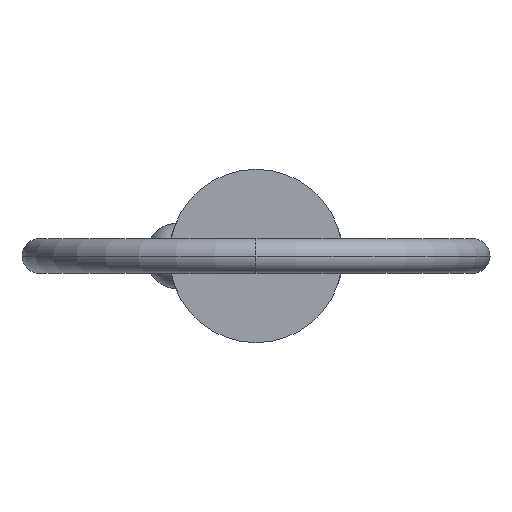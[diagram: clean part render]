
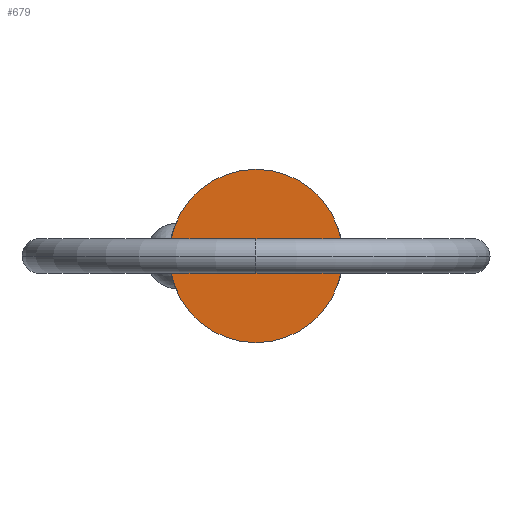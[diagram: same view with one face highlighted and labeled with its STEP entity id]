
A CAD part, left-side view. The second image highlights one B-rep face of the part: STEP entity #679.
In plain terms, the highlighted planar face has unit normal (-1, 0, 0).
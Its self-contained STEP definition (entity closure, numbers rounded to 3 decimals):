
#4 = DIRECTION ( 'NONE',  ( 1., 0., 0. ) ) ;
#46 = CARTESIAN_POINT ( 'NONE',  ( 0., 0., 0. ) ) ;
#82 = ORIENTED_EDGE ( 'NONE', *, *, #477, .F. ) ;
#208 = CARTESIAN_POINT ( 'NONE',  ( 0., 0., 0. ) ) ;
#219 = EDGE_LOOP ( 'NONE', ( #82, #696 ) ) ;
#279 = CIRCLE ( 'NONE', #787, 6.35 ) ;
#311 = CARTESIAN_POINT ( 'NONE',  ( 0., 0., 6.35 ) ) ;
#326 = DIRECTION ( 'NONE',  ( -1., 0., 0. ) ) ;
#356 = DIRECTION ( 'NONE',  ( 0., 0., -1. ) ) ;
#384 = FACE_OUTER_BOUND ( 'NONE', #219, .T. ) ;
#423 = AXIS2_PLACEMENT_3D ( 'NONE', #208, #4, #646 ) ;
#448 = CIRCLE ( 'NONE', #423, 6.35 ) ;
#477 = EDGE_CURVE ( 'NONE', #811, #747, #279, .T. ) ;
#605 = DIRECTION ( 'NONE',  ( 1., 0., 0. ) ) ;
#646 = DIRECTION ( 'NONE',  ( 0., 0., -1. ) ) ;
#654 = AXIS2_PLACEMENT_3D ( 'NONE', #46, #326, #814 ) ;
#679 = ADVANCED_FACE ( 'NONE', ( #384 ), #739, .T. ) ;
#696 = ORIENTED_EDGE ( 'NONE', *, *, #889, .F. ) ;
#739 = PLANE ( 'NONE',  #654 ) ;
#744 = CARTESIAN_POINT ( 'NONE',  ( 0., 0., 0. ) ) ;
#747 = VERTEX_POINT ( 'NONE', #311 ) ;
#755 = CARTESIAN_POINT ( 'NONE',  ( 0., 0., -6.35 ) ) ;
#787 = AXIS2_PLACEMENT_3D ( 'NONE', #744, #605, #356 ) ;
#811 = VERTEX_POINT ( 'NONE', #755 ) ;
#814 = DIRECTION ( 'NONE',  ( 0., 0., 1. ) ) ;
#889 = EDGE_CURVE ( 'NONE', #747, #811, #448, .T. ) ;
